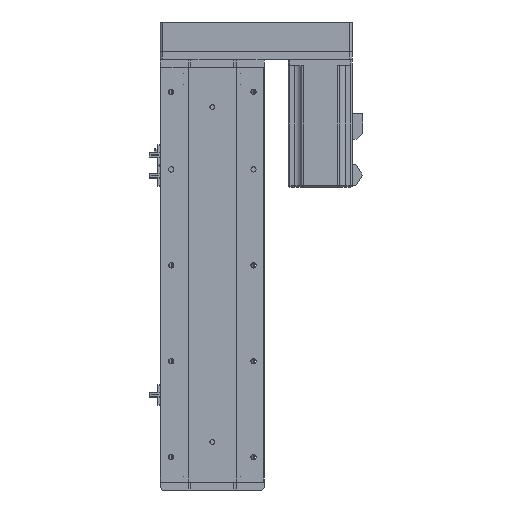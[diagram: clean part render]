
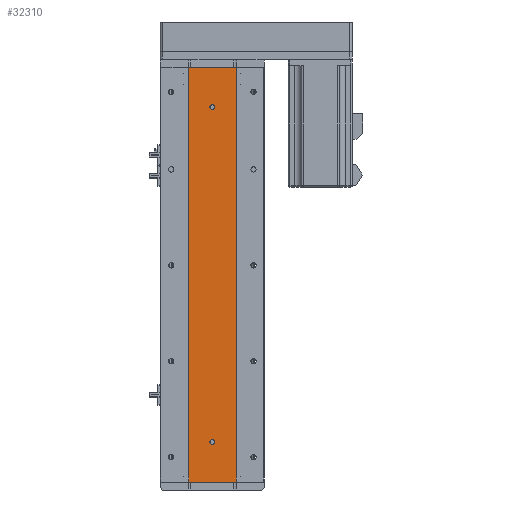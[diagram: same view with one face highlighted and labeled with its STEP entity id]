
A CAD part, left-side view. The second image highlights one B-rep face of the part: STEP entity #32310.
In plain terms, the highlighted planar face has unit normal (-1, 0, 0).
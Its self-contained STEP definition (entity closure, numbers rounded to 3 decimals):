
#1141 = ORIENTED_EDGE ( 'NONE', *, *, #11248, .T. ) ;
#1330 = DIRECTION ( 'NONE',  ( 0., -1., 0. ) ) ;
#1369 = VECTOR ( 'NONE', #36341, 1000. ) ;
#1883 = DIRECTION ( 'NONE',  ( -1., 0., 0. ) ) ;
#2006 = ORIENTED_EDGE ( 'NONE', *, *, #28012, .F. ) ;
#2477 = AXIS2_PLACEMENT_3D ( 'NONE', #30578, #11725, #33726 ) ;
#3052 = CIRCLE ( 'NONE', #13667, 3. ) ;
#3179 = CARTESIAN_POINT ( 'NONE',  ( -24.994, 0., 469. ) ) ;
#3252 = CARTESIAN_POINT ( 'NONE',  ( -24.994, -29.785, 0. ) ) ;
#3390 = CARTESIAN_POINT ( 'NONE',  ( -24.994, 0., 47. ) ) ;
#3469 = AXIS2_PLACEMENT_3D ( 'NONE', #6755, #28784, #9906 ) ;
#5707 = ORIENTED_EDGE ( 'NONE', *, *, #14437, .T. ) ;
#6360 = DIRECTION ( 'NONE',  ( 0., 0., 1. ) ) ;
#6552 = CARTESIAN_POINT ( 'NONE',  ( -24.994, 0., 466. ) ) ;
#6755 = CARTESIAN_POINT ( 'NONE',  ( -24.994, 0., 50. ) ) ;
#7023 = FACE_BOUND ( 'NONE', #37411, .T. ) ;
#7311 = VERTEX_POINT ( 'NONE', #21631 ) ;
#7800 = ORIENTED_EDGE ( 'NONE', *, *, #24250, .F. ) ;
#9085 = CARTESIAN_POINT ( 'NONE',  ( -24.994, 0., 50. ) ) ;
#9906 = DIRECTION ( 'NONE',  ( 0., 0., 1. ) ) ;
#10948 = VECTOR ( 'NONE', #19081, 1000. ) ;
#11248 = EDGE_CURVE ( 'NONE', #33428, #29585, #27578, .T. ) ;
#11725 = DIRECTION ( 'NONE',  ( 1., 0., 0. ) ) ;
#12279 = DIRECTION ( 'NONE',  ( 0., 0., 1. ) ) ;
#13667 = AXIS2_PLACEMENT_3D ( 'NONE', #3179, #25255, #6360 ) ;
#13856 = ORIENTED_EDGE ( 'NONE', *, *, #35950, .F. ) ;
#14329 = CARTESIAN_POINT ( 'NONE',  ( -24.994, -29.785, 519. ) ) ;
#14437 = EDGE_CURVE ( 'NONE', #38595, #33428, #27702, .T. ) ;
#15176 = AXIS2_PLACEMENT_3D ( 'NONE', #9085, #31114, #12279 ) ;
#15407 = EDGE_CURVE ( 'NONE', #38180, #29585, #18138, .T. ) ;
#15410 = FACE_OUTER_BOUND ( 'NONE', #38984, .T. ) ;
#16155 = VERTEX_POINT ( 'NONE', #6552 ) ;
#17056 = CARTESIAN_POINT ( 'NONE',  ( -24.994, 29.785, 519. ) ) ;
#17665 = EDGE_CURVE ( 'NONE', #16155, #7311, #32672, .T. ) ;
#17918 = PLANE ( 'NONE',  #2477 ) ;
#18138 = LINE ( 'NONE', #14329, #1369 ) ;
#19081 = DIRECTION ( 'NONE',  ( 0., 0., -1. ) ) ;
#20586 = CARTESIAN_POINT ( 'NONE',  ( -24.994, 29.785, 519. ) ) ;
#20769 = CARTESIAN_POINT ( 'NONE',  ( -24.994, 0., 469. ) ) ;
#20875 = CIRCLE ( 'NONE', #15176, 3. ) ;
#21307 = DIRECTION ( 'NONE',  ( 0., -1., 0. ) ) ;
#21445 = CARTESIAN_POINT ( 'NONE',  ( -24.994, 29.785, 0. ) ) ;
#21631 = CARTESIAN_POINT ( 'NONE',  ( -24.994, 0., 472. ) ) ;
#22793 = EDGE_LOOP ( 'NONE', ( #30066, #26549 ) ) ;
#23015 = ORIENTED_EDGE ( 'NONE', *, *, #15407, .F. ) ;
#23517 = CIRCLE ( 'NONE', #3469, 3. ) ;
#23966 = DIRECTION ( 'NONE',  ( 0., 0., 1. ) ) ;
#24250 = EDGE_CURVE ( 'NONE', #38197, #26773, #20875, .T. ) ;
#24261 = AXIS2_PLACEMENT_3D ( 'NONE', #20769, #1883, #23966 ) ;
#25197 = CARTESIAN_POINT ( 'NONE',  ( -24.994, 0., 53. ) ) ;
#25255 = DIRECTION ( 'NONE',  ( -1., 0., 0. ) ) ;
#26549 = ORIENTED_EDGE ( 'NONE', *, *, #17665, .F. ) ;
#26609 = VECTOR ( 'NONE', #21307, 1000. ) ;
#26773 = VERTEX_POINT ( 'NONE', #25197 ) ;
#27359 = VECTOR ( 'NONE', #1330, 1000. ) ;
#27578 = LINE ( 'NONE', #21445, #26609 ) ;
#27590 = CARTESIAN_POINT ( 'NONE',  ( -24.994, 29.785, 0. ) ) ;
#27702 = LINE ( 'NONE', #37926, #10948 ) ;
#28012 = EDGE_CURVE ( 'NONE', #26773, #38197, #23517, .T. ) ;
#28354 = LINE ( 'NONE', #17056, #27359 ) ;
#28463 = CARTESIAN_POINT ( 'NONE',  ( -24.994, -29.785, 519. ) ) ;
#28784 = DIRECTION ( 'NONE',  ( -1., 0., 0. ) ) ;
#29585 = VERTEX_POINT ( 'NONE', #3252 ) ;
#30066 = ORIENTED_EDGE ( 'NONE', *, *, #40573, .F. ) ;
#30578 = CARTESIAN_POINT ( 'NONE',  ( -24.994, 29.785, 519. ) ) ;
#31114 = DIRECTION ( 'NONE',  ( -1., 0., 0. ) ) ;
#31159 = FACE_BOUND ( 'NONE', #22793, .T. ) ;
#32310 = ADVANCED_FACE ( 'NONE', ( #31159, #7023, #15410 ), #17918, .F. ) ;
#32672 = CIRCLE ( 'NONE', #24261, 3. ) ;
#33428 = VERTEX_POINT ( 'NONE', #27590 ) ;
#33726 = DIRECTION ( 'NONE',  ( 0., 0., -1. ) ) ;
#35950 = EDGE_CURVE ( 'NONE', #38595, #38180, #28354, .T. ) ;
#36341 = DIRECTION ( 'NONE',  ( 0., 0., -1. ) ) ;
#37411 = EDGE_LOOP ( 'NONE', ( #2006, #7800 ) ) ;
#37926 = CARTESIAN_POINT ( 'NONE',  ( -24.994, 29.785, 519. ) ) ;
#38180 = VERTEX_POINT ( 'NONE', #28463 ) ;
#38197 = VERTEX_POINT ( 'NONE', #3390 ) ;
#38595 = VERTEX_POINT ( 'NONE', #20586 ) ;
#38984 = EDGE_LOOP ( 'NONE', ( #1141, #23015, #13856, #5707 ) ) ;
#40573 = EDGE_CURVE ( 'NONE', #7311, #16155, #3052, .T. ) ;
